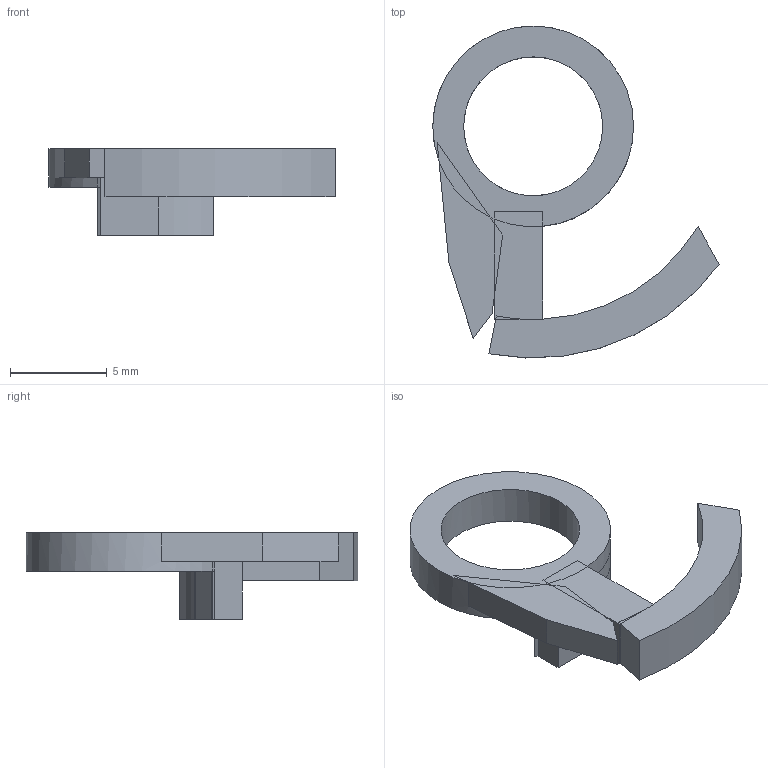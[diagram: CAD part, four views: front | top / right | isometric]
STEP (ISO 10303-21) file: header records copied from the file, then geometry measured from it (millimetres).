
FILE_DESCRIPTION(('FreeCAD Model'),'2;1');
FILE_NAME('/Users/alberto/Desktop/Dtto v2.0.1 STEP/014-1.step', '2017-05-29T11:49:26',('Author'),(''), 'Open CASCADE STEP processor 6.8','FreeCAD','Unknown');
FILE_SCHEMA(('AUTOMOTIVE_DESIGN_CC2 { 1 2 10303 214 -1 1 5 4 }'));
Length unit declared in the file: millimetre
Products named in the file (2): ASSEMBLY; Fusion097
Assembly tree (1 placements, depth 2):
  ASSEMBLY
    Fusion097
Bounding box: 14.84 x 17.19 x 4.5 mm (x, y, z)
Volume: 228.3 mm3; surface area: 434.9 mm2
Topology: 1 solids, 1 shells, 54 faces, 131 edges, 78 vertices
Faces by surface type: plane 42, cylinder 12
Full cylindrical faces by diameter (mm): 7.2 x1
Entity records: 3579 total; most frequent: CARTESIAN_POINT 605, DIRECTION 457, ORIENTED_EDGE 262, PCURVE 262, DEFINITIONAL_REPRESENTATION 262, LINE 253, VECTOR 253, EDGE_CURVE 131
